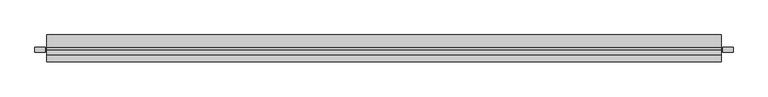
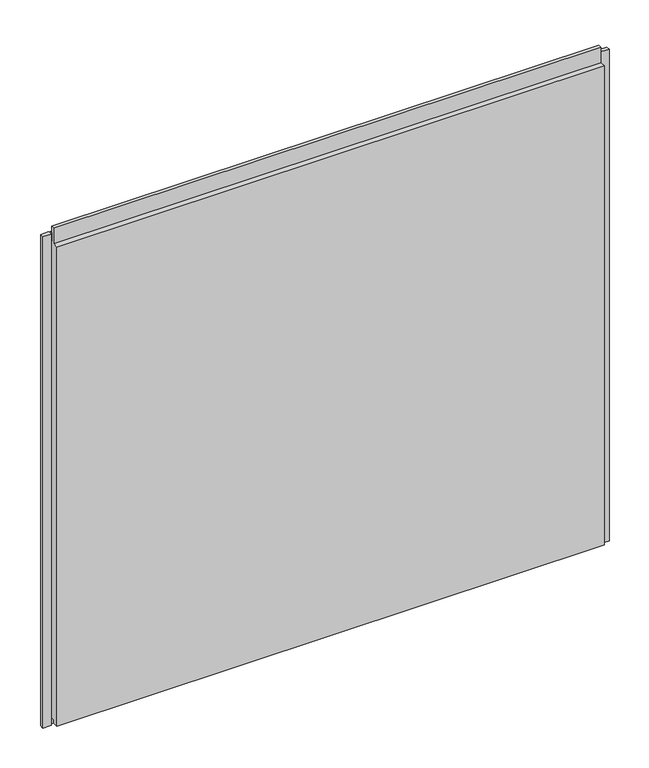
"""IFC4 building model written with IfcOpenShell, lengths in millimetres: plate geometry, Trimo_Qbiss Screen_Normal Panel-HORIZONTAL : HR - B."""

import ifcopenshell
import ifcopenshell.guid

model = None  # the IFC model being written
_history = None  # IfcOwnerHistory: only IFC2X3 demands one
_inside = {}  # id of a spatial element -> (the spatial element, [elements in it])
_under = {}  # id of a project, library or spatial element -> (it, [spatial elements below it])
_declared = {}  # id of a project -> (the project, [libraries it declares])
_typed = {}  # id of a type object -> (the type object, [elements of that type])
_made_of = {}  # id of a material, layer set ... -> (it, [elements and type objects made of it])


def new_model(schema):
    """Start an empty IFC model of exactly this schema.

    Asked for "IFC4X3", IfcOpenShell would pick the latest addendum, in which some entities
    have other attributes; the version numbers below select the first issue.
    IFC2X3 requires an IfcOwnerHistory on every rooted entity: one is made here for all.
    """
    global model, _history
    if schema == "IFC4X3":
        model = ifcopenshell.file(schema_version=(4, 3, 0, 0))
    else:
        model = ifcopenshell.file(schema=schema)
    _inside.clear()
    _under.clear()
    _declared.clear()
    _typed.clear()
    _made_of.clear()
    _history = None
    if model.schema == "IFC2X3":
        org = make("IfcOrganization", Name="unknown")
        user = make(
            "IfcPersonAndOrganization",
            ThePerson=make("IfcPerson", FamilyName="unknown"),
            TheOrganization=org,
        )
        app = make(
            "IfcApplication",
            ApplicationDeveloper=org,
            Version="unknown",
            ApplicationFullName="unknown",
            ApplicationIdentifier="unknown",
        )
        _history = make(
            "IfcOwnerHistory",
            OwningUser=user,
            OwningApplication=app,
            ChangeAction="ADDED",
            CreationDate=0,
        )
    return model


def make(cls, **values):
    """One entity of the class cls with the attributes given. An attribute that is None is left unset."""
    return model.create_entity(
        cls, **{name: value for name, value in values.items() if value is not None}
    )


def rooted(cls, **values):
    """An entity with a GlobalId (a new one), such as an element, a storey or a relation."""
    return make(cls, GlobalId=ifcopenshell.guid.new(), OwnerHistory=_history, **values)


def si_unit(unit_type, name, prefix=None):
    """IfcSIUnit, for example si_unit("LENGTHUNIT", "METRE", prefix="MILLI")."""
    return make("IfcSIUnit", UnitType=unit_type, Prefix=prefix, Name=name)


def assignment(units):
    """IfcUnitAssignment: the units of a project."""
    return None if units is None else make("IfcUnitAssignment", Units=units)


def point(xyz):
    """IfcCartesianPoint."""
    return None if xyz is None else make("IfcCartesianPoint", Coordinates=xyz)


def direction(xyz):
    """IfcDirection."""
    return None if xyz is None else make("IfcDirection", DirectionRatios=xyz)


def frame(location, z_axis=None, x_axis=None):
    """IfcAxis2Placement3D, a coordinate frame: its origin and axes. An axis left out is left unset."""
    return make(
        "IfcAxis2Placement3D",
        Location=point(location),
        Axis=direction(z_axis),
        RefDirection=direction(x_axis),
    )


def origin():
    """The frame at (0, 0, 0) with its axes left unset."""
    return frame((0.0, 0.0, 0.0))


def place(relative_to, where):
    """IfcLocalPlacement: puts the frame where relative to a parent placement (None: the world)."""
    return make(
        "IfcLocalPlacement", PlacementRelTo=relative_to, RelativePlacement=where
    )


def context(
    kind, dimensions, precision=None, world=None, true_north=None, identifier=None
):
    """IfcGeometricRepresentationContext, for example the 3D "Model" context."""
    return make(
        "IfcGeometricRepresentationContext",
        ContextIdentifier=identifier,
        ContextType=kind,
        CoordinateSpaceDimension=dimensions,
        Precision=precision,
        WorldCoordinateSystem=world,
        TrueNorth=true_north,
    )


def project(units=None, contexts=None):
    """IfcProject with its units and contexts."""
    return rooted(
        "IfcProject",
        Name="project",
        RepresentationContexts=contexts,
        UnitsInContext=assignment(units),
    )


def spatial(cls, under=None, at=None, **own):
    """A site, building, storey or space (cls), placed at a placement, below another one or the project."""
    s = rooted(cls, ObjectPlacement=at, **own)
    if under is not None:
        _under.setdefault(under.id(), (under, []))[1].append(s)
    return s


def polyline(points):
    """IfcPolyline through the points."""
    return make("IfcPolyline", Points=[point(p) for p in points])


def outline(outer, holes=None, kind="AREA"):
    """IfcArbitraryClosedProfileDef: a profile drawn as a closed curve; with holes, ...WithVoids."""
    if holes is None:
        return make("IfcArbitraryClosedProfileDef", ProfileType=kind, OuterCurve=outer)
    return make(
        "IfcArbitraryProfileDefWithVoids",
        ProfileType=kind,
        OuterCurve=outer,
        InnerCurves=holes,
    )


def extrude(swept, where, along, depth):
    """IfcExtrudedAreaSolid: the profile swept, set in the frame where, extruded along a direction by depth."""
    return make(
        "IfcExtrudedAreaSolid",
        SweptArea=swept,
        Position=where,
        ExtrudedDirection=direction(along),
        Depth=depth,
    )


def shape(context_of_items, identifier, shape_type, items):
    """IfcShapeRepresentation: the items that make up one representation, for example the "Body"."""
    return make(
        "IfcShapeRepresentation",
        ContextOfItems=context_of_items,
        RepresentationIdentifier=identifier,
        RepresentationType=shape_type,
        Items=items,
    )


def source(mapping_origin, context_of_items, identifier, shape_type, items):
    """IfcRepresentationMap: a shape defined once, which mapped items show again and again."""
    return make(
        "IfcRepresentationMap",
        MappingOrigin=mapping_origin,
        MappedRepresentation=shape(context_of_items, identifier, shape_type, items),
    )


def transform(
    local_origin,
    x_axis=None,
    y_axis=None,
    z_axis=None,
    scale=None,
    scale2=None,
    scale3=None,
    uniform=True,
):
    """IfcCartesianTransformationOperator3D, or its non-uniform kind. x_axis, y_axis, z_axis: its Axis1, 2, 3."""
    if uniform:
        return make(
            "IfcCartesianTransformationOperator3D",
            Axis1=direction(x_axis),
            Axis2=direction(y_axis),
            LocalOrigin=point(local_origin),
            Scale=scale,
            Axis3=direction(z_axis),
        )
    return make(
        "IfcCartesianTransformationOperator3DnonUniform",
        Axis1=direction(x_axis),
        Axis2=direction(y_axis),
        LocalOrigin=point(local_origin),
        Scale=scale,
        Axis3=direction(z_axis),
        Scale2=scale2,
        Scale3=scale3,
    )


def mapped(mapping_source, mapping_target):
    """IfcMappedItem: shows the shape of a source again, moved by a transform."""
    return make(
        "IfcMappedItem", MappingSource=mapping_source, MappingTarget=mapping_target
    )


def made_of(thing, what):
    """Note that an element or type object is made of a material, layer set ...; save() writes the relation."""
    if what is not None:
        _made_of.setdefault(what.id(), (what, []))[1].append(thing)
    return thing


def element(
    cls,
    number,
    at=None,
    inside=None,
    cuts=None,
    type_object=None,
    material=None,
    context=None,
    identifier="Body",
    shape_type=None,
    held_by="IfcProductDefinitionShape",
    body=None,
    shapes=None,
    **own,
):
    """One element of the class cls, such as IfcWall. Its Tag is "e" and its number.

    at: its placement. inside: the storey or other place that contains it. cuts: it is an
    opening in that element (IfcRelVoidsElement). A single representation is given by context,
    identifier, shape_type and body (its items); several are given by shapes. held_by: the class
    of the entity that holds the representations. save() writes the other relations.
    """
    e = rooted(cls, Tag="e%d" % number, ObjectPlacement=at, **own)
    if body is not None:
        shapes = [shape(context, identifier, shape_type, body)]
    if shapes is not None:
        e.Representation = make(held_by, Representations=shapes)
    if inside is not None:
        _inside.setdefault(inside.id(), (inside, []))[1].append(e)
    if cuts is not None:
        rooted(
            "IfcRelVoidsElement", RelatingBuildingElement=cuts, RelatedOpeningElement=e
        )
    if type_object is not None:
        _typed.setdefault(type_object.id(), (type_object, []))[1].append(e)
    return made_of(e, material)


def aggregate(whole, parts):
    """IfcRelAggregates: a whole, such as a stair, and the parts it consists of."""
    return rooted("IfcRelAggregates", RelatingObject=whole, RelatedObjects=parts)


def save(model, path):
    """Write the relations noted so far, then the file.

    IfcRelAggregates (storeys below a building ...), IfcRelContainedInSpatialStructure (elements
    in a storey), IfcRelDefinesByType, IfcRelAssociatesMaterial and IfcRelDeclares: one each for
    every whole, place, type object, material and project.
    """
    for whole, parts in _under.values():
        aggregate(whole, parts)
    for where, things in _inside.values():
        rooted(
            "IfcRelContainedInSpatialStructure",
            RelatedElements=things,
            RelatingStructure=where,
        )
    for kind, things in _typed.values():
        rooted("IfcRelDefinesByType", RelatedObjects=things, RelatingType=kind)
    for what, things in _made_of.values():
        rooted("IfcRelAssociatesMaterial", RelatedObjects=things, RelatingMaterial=what)
    for by, libraries in _declared.values():
        rooted("IfcRelDeclares", RelatingContext=by, RelatedDefinitions=libraries)
    model.write(path)


def plate_4ef635bb(model_context):
    return source(origin(), model_context, "Body", "SweptSolid", [
        extrude(outline(polyline([(-634.25, 76.5978162), (-634.25, 67.8978162), (-653.25, 67.8978162), (-653.25, 76.5978162), (-634.25, 76.5978162)])), frame((0.0, 0.0, -1.0), z_axis=(0.0, 0.0, 1.0), x_axis=(1.0, 0.0, 0.0)), (0.0, 0.0, 1.0), 1200.0),
        extrude(outline(polyline([(634.25, 67.8978162), (634.25, 76.5978162), (653.25, 76.5978162), (653.25, 67.8978162), (634.25, 67.8978162)])), frame((0.0, 0.0, -1.0), z_axis=(0.0, 0.0, 1.0), x_axis=(1.0, 0.0, 0.0)), (0.0, 0.0, 1.0), 1200.0),
        extrude(outline(polyline([(631.25, 76.0), (631.25, 71.0), (-631.25, 71.0), (-631.25, 76.0), (631.25, 76.0)])), frame((0.0, 0.0, 1178.0), z_axis=(0.0, 0.0, 1.0), x_axis=(1.0, 0.0, 0.0)), (0.0, 0.0, 1.0), 21.0),
        extrude(outline(polyline([(71.0, 1177.0), (100.0, 1177.0), (100.0, 0.0), (72.0, 0.0), (72.0, 15.5), (62.0, 15.5), (62.0, 7.0), (50.0, 7.0), (50.0, 1177.0), (63.0, 1177.0), (63.0, 1214.5), (71.0, 1214.5), (71.0, 1177.0)])), frame((-631.25, 0.0, 0.0), z_axis=(1.0, 0.0, 0.0), x_axis=(0.0, 1.0, 0.0)), (0.0, 0.0, 1.0), 1262.5),
    ])


if __name__ == "__main__":
    model = new_model("IFC4")
    model_context = context("Model", 3, world=origin())
    ifc_project = project(units=[si_unit("LENGTHUNIT", "METRE", prefix="MILLI")], contexts=[model_context])
    site = spatial("IfcSite", under=ifc_project)
    building = spatial("IfcBuilding", under=site)
    placement = place(None, origin())
    plate_shape = plate_4ef635bb(model_context)
    element("IfcPlate", 1, ObjectType="Trimo_Qbiss Screen_Normal Panel-HORIZONTAL : HR - B", at=placement, inside=building, context=model_context, shape_type="MappedRepresentation", body=[
        mapped(plate_shape, transform((0.0, 0.0, 0.0), x_axis=(1.0, 0.0, 0.0), y_axis=(0.0, 1.0, 0.0), z_axis=(0.0, 0.0, 1.0))),
    ])
    save(model, "model.ifc")
